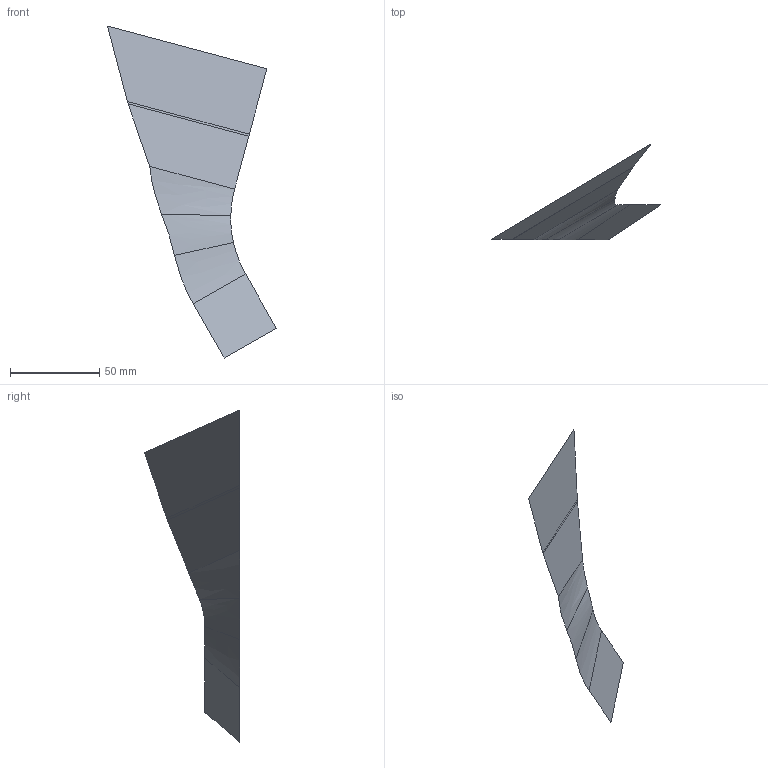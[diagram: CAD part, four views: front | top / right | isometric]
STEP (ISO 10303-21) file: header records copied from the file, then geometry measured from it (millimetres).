
FILE_DESCRIPTION(('CATIA V5 STEP Exchange'),'2;1');
FILE_NAME('D:\cdpcad\fett\066431_Catia\Flaeche.stp','2009-04-28T06:59:06+00:00',('none'),('none'),'CATIA Version 5 Release 16 (IN-10)','CATIA V5 STEP AP203','none');
FILE_SCHEMA(('CONFIG_CONTROL_DESIGN'));
Length unit declared in the file: millimetre
Products named in the file (1): Flaeche
Bounding box: 94.58 x 53.34 x 185.99 mm (x, y, z)
Surface area: 10221.6 mm2 (no closed solid volume)
Topology: 0 solids, 7 shells, 7 faces, 28 edges, 28 vertices
Faces by surface type: bspline 4, plane 3
Entity records: 502 total; most frequent: CARTESIAN_POINT 268, ORIENTED_EDGE 28, EDGE_CURVE 28, VERTEX_POINT 28, DIRECTION 18, B_SPLINE_CURVE_WITH_KNOTS 16, VECTOR 12, LINE 12
